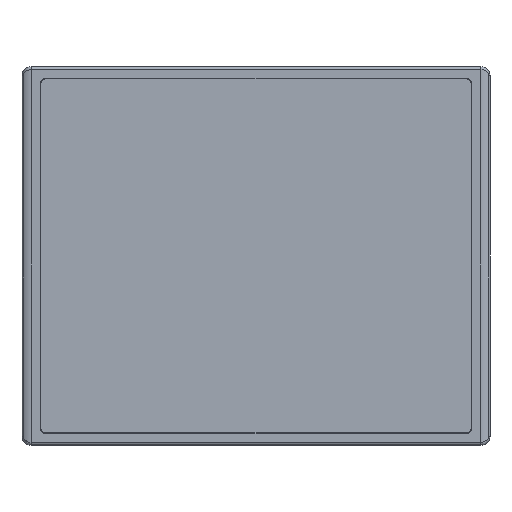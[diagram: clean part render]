
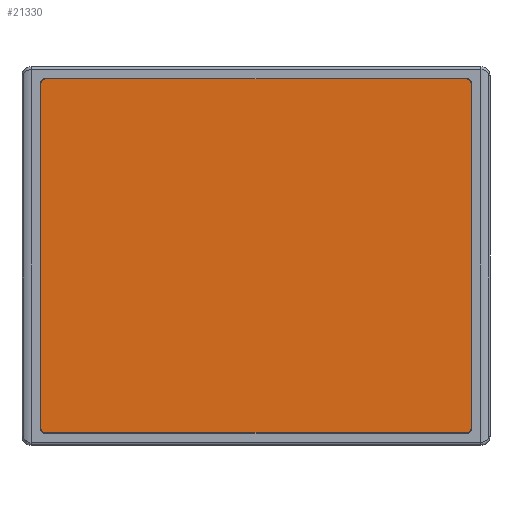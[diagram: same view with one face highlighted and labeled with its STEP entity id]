
A CAD part, top view. The second image highlights one B-rep face of the part: STEP entity #21330.
In plain terms, the highlighted planar face has unit normal (0, 0, 1).
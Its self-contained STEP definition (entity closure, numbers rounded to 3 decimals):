
#1996=DIRECTION('',(0.,-1.,0.));
#1997=VECTOR('',#1996,189.);
#1998=CARTESIAN_POINT('',(-118.2,94.5,5.9));
#1999=LINE('',#1998,#1997);
#2000=CARTESIAN_POINT('',(-115.5,94.5,5.9));
#2001=DIRECTION('',(0.,0.,1.));
#2002=DIRECTION('',(0.,1.,0.));
#2003=AXIS2_PLACEMENT_3D('',#2000,#2001,#2002);
#2005=DIRECTION('',(-1.,0.,0.));
#2006=VECTOR('',#2005,231.);
#2007=CARTESIAN_POINT('',(115.5,97.2,5.9));
#2008=LINE('',#2007,#2006);
#2009=CARTESIAN_POINT('',(115.5,94.5,5.9));
#2010=DIRECTION('',(0.,0.,1.));
#2011=DIRECTION('',(1.,0.,0.));
#2012=AXIS2_PLACEMENT_3D('',#2009,#2010,#2011);
#2014=DIRECTION('',(0.,1.,0.));
#2015=VECTOR('',#2014,189.);
#2016=CARTESIAN_POINT('',(118.2,-94.5,5.9));
#2017=LINE('',#2016,#2015);
#2018=CARTESIAN_POINT('',(115.5,-94.5,5.9));
#2019=DIRECTION('',(0.,0.,1.));
#2020=DIRECTION('',(0.,-1.,0.));
#2021=AXIS2_PLACEMENT_3D('',#2018,#2019,#2020);
#2023=DIRECTION('',(1.,0.,0.));
#2024=VECTOR('',#2023,231.);
#2025=CARTESIAN_POINT('',(-115.5,-97.2,5.9));
#2026=LINE('',#2025,#2024);
#2027=CARTESIAN_POINT('',(-115.5,-94.5,5.9));
#2028=DIRECTION('',(0.,0.,1.));
#2029=DIRECTION('',(-1.,0.,0.));
#2030=AXIS2_PLACEMENT_3D('',#2027,#2028,#2029);
#16628=CARTESIAN_POINT('',(-118.2,94.5,5.9));
#16629=CARTESIAN_POINT('',(-118.2,-94.5,5.9));
#16630=VERTEX_POINT('',#16628);
#16631=VERTEX_POINT('',#16629);
#16632=CARTESIAN_POINT('',(-115.5,-97.2,5.9));
#16633=VERTEX_POINT('',#16632);
#16634=CARTESIAN_POINT('',(115.5,-97.2,5.9));
#16635=VERTEX_POINT('',#16634);
#16636=CARTESIAN_POINT('',(118.2,-94.5,5.9));
#16637=VERTEX_POINT('',#16636);
#16638=CARTESIAN_POINT('',(118.2,94.5,5.9));
#16639=VERTEX_POINT('',#16638);
#16640=CARTESIAN_POINT('',(115.5,97.2,5.9));
#16641=VERTEX_POINT('',#16640);
#16642=CARTESIAN_POINT('',(-115.5,97.2,5.9));
#16643=VERTEX_POINT('',#16642);
#21315=CARTESIAN_POINT('',(0.,0.,5.9));
#21316=DIRECTION('',(0.,0.,1.));
#21317=DIRECTION('',(1.,0.,0.));
#21318=AXIS2_PLACEMENT_3D('',#21315,#21316,#21317);
#21319=PLANE('',#21318);
#21320=ORIENTED_EDGE('',*,*,#21211,.F.);
#21321=ORIENTED_EDGE('',*,*,#21226,.F.);
#21322=ORIENTED_EDGE('',*,*,#21240,.F.);
#21323=ORIENTED_EDGE('',*,*,#21254,.F.);
#21324=ORIENTED_EDGE('',*,*,#21268,.F.);
#21325=ORIENTED_EDGE('',*,*,#21282,.F.);
#21326=ORIENTED_EDGE('',*,*,#21296,.F.);
#21327=ORIENTED_EDGE('',*,*,#21309,.F.);
#21328=EDGE_LOOP('',(#21320,#21321,#21322,#21323,#21324,#21325,#21326,#21327));
#21329=FACE_OUTER_BOUND('',#21328,.F.);
#2004=CIRCLE('',#2003,2.7);
#2013=CIRCLE('',#2012,2.7);
#2022=CIRCLE('',#2021,2.7);
#2031=CIRCLE('',#2030,2.7);
#21211=EDGE_CURVE('',#16630,#16631,#1999,.T.);
#21226=EDGE_CURVE('',#16643,#16630,#2004,.T.);
#21240=EDGE_CURVE('',#16641,#16643,#2008,.T.);
#21254=EDGE_CURVE('',#16639,#16641,#2013,.T.);
#21268=EDGE_CURVE('',#16637,#16639,#2017,.T.);
#21282=EDGE_CURVE('',#16635,#16637,#2022,.T.);
#21296=EDGE_CURVE('',#16633,#16635,#2026,.T.);
#21309=EDGE_CURVE('',#16631,#16633,#2031,.T.);
#21330=ADVANCED_FACE('',(#21329),#21319,.T.);
